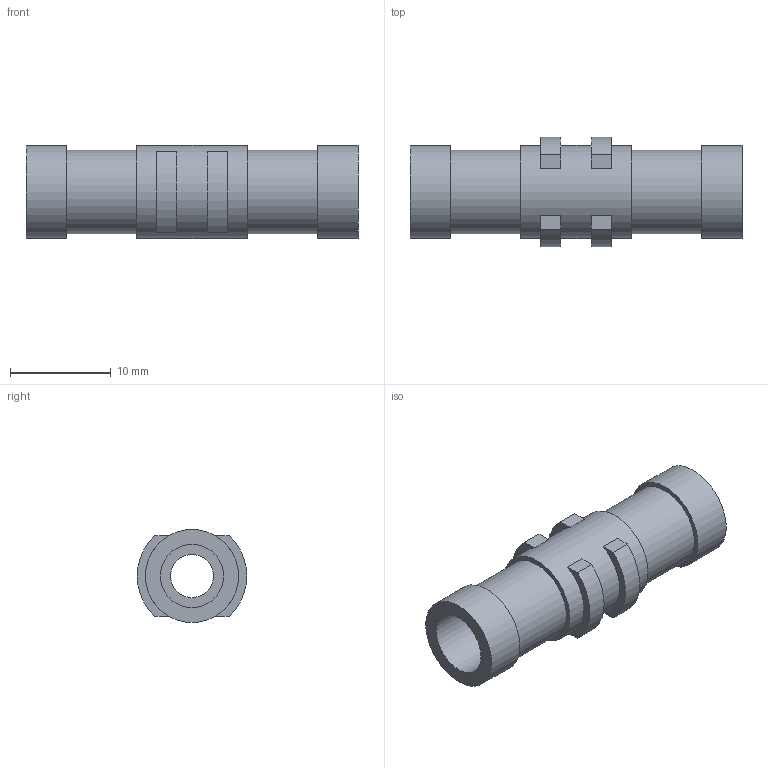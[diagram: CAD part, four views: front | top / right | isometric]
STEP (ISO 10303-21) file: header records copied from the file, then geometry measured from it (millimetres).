
FILE_DESCRIPTION (( 'STEP AP203' ), '1' );
FILE_NAME ('70-6.3U-P.STEP', '2014-02-26T08:42:56', ( '' ), ( '' ), 'SwSTEP 2.0', 'SolidWorks 2012', '' );
FILE_SCHEMA (( 'CONFIG_CONTROL_DESIGN' ));
Length unit declared in the file: millimetre
Products named in the file (1): 70-6.3U-P
Bounding box: 33 x 10.9 x 9.25 mm (x, y, z)
Volume: 1399.8 mm3; surface area: 1680.2 mm2
Topology: 1 solids, 1 shells, 36 faces, 72 edges, 48 vertices
Faces by surface type: plane 24, cylinder 12
Full cylindrical faces by diameter (mm): 4.3 x1, 6.3 x2, 8.3 x2, 9.25 x3
Entity records: 989 total; most frequent: DIRECTION 170, CARTESIAN_POINT 149, ORIENTED_EDGE 128, AXIS2_PLACEMENT_3D 69, EDGE_CURVE 64, EDGE_LOOP 56, VERTEX_POINT 48, FACE_OUTER_BOUND 44
